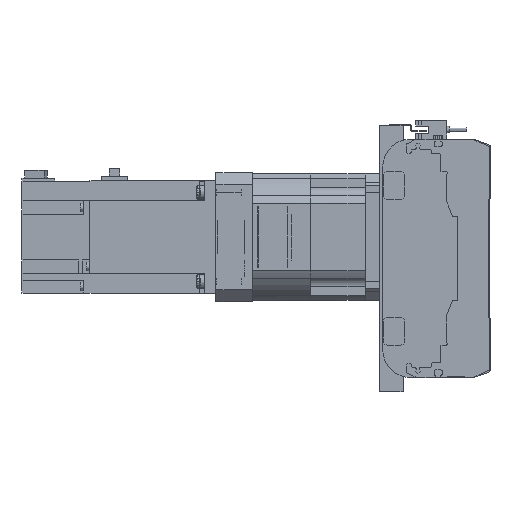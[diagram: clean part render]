
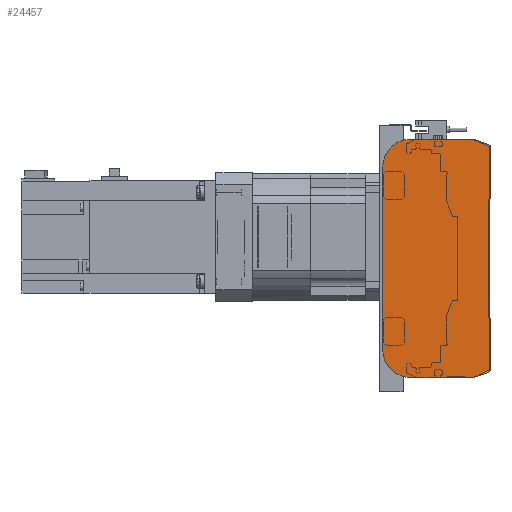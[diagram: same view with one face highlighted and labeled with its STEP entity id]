
A CAD part, left-side view. The second image highlights one B-rep face of the part: STEP entity #24457.
In plain terms, the highlighted planar face has unit normal (-1, 0, 0).
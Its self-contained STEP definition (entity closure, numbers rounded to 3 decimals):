
#1877=CIRCLE('',#26765,2.);
#1878=CIRCLE('',#26768,2.);
#1879=CIRCLE('',#26771,20.);
#1880=CIRCLE('',#26774,20.);
#7042=ORIENTED_EDGE('',*,*,#11679,.F.);
#7043=ORIENTED_EDGE('',*,*,#11757,.F.);
#7044=ORIENTED_EDGE('',*,*,#11755,.F.);
#7045=ORIENTED_EDGE('',*,*,#11753,.F.);
#7046=ORIENTED_EDGE('',*,*,#11456,.F.);
#7047=ORIENTED_EDGE('',*,*,#11752,.F.);
#7048=ORIENTED_EDGE('',*,*,#11750,.F.);
#7049=ORIENTED_EDGE('',*,*,#11748,.F.);
#7050=ORIENTED_EDGE('',*,*,#11746,.F.);
#7051=ORIENTED_EDGE('',*,*,#11744,.F.);
#11456=EDGE_CURVE('',#14134,#14135,#16208,.T.);
#11679=EDGE_CURVE('',#14206,#14207,#16322,.T.);
#11744=EDGE_CURVE('',#14207,#14248,#16367,.T.);
#11746=EDGE_CURVE('',#14248,#14249,#1877,.T.);
#11748=EDGE_CURVE('',#14249,#14250,#16370,.T.);
#11750=EDGE_CURVE('',#14250,#14251,#1878,.T.);
#11752=EDGE_CURVE('',#14251,#14134,#16373,.T.);
#11753=EDGE_CURVE('',#14135,#14252,#1879,.T.);
#11755=EDGE_CURVE('',#14252,#14253,#16375,.T.);
#11757=EDGE_CURVE('',#14253,#14206,#1880,.T.);
#14134=VERTEX_POINT('',#41238);
#14135=VERTEX_POINT('',#41240);
#14206=VERTEX_POINT('',#41586);
#14207=VERTEX_POINT('',#41588);
#14248=VERTEX_POINT('',#41718);
#14249=VERTEX_POINT('',#41722);
#14250=VERTEX_POINT('',#41726);
#14251=VERTEX_POINT('',#41730);
#14252=VERTEX_POINT('',#41736);
#14253=VERTEX_POINT('',#41740);
#16208=LINE('',#41239,#18245);
#16322=LINE('',#41587,#18359);
#16367=LINE('',#41717,#18404);
#16370=LINE('',#41725,#18407);
#16373=LINE('',#41733,#18410);
#16375=LINE('',#41739,#18412);
#18245=VECTOR('',#32423,1000.);
#18359=VECTOR('',#32861,1000.);
#18404=VECTOR('',#32994,1000.);
#18407=VECTOR('',#33003,1000.);
#18410=VECTOR('',#33012,1000.);
#18412=VECTOR('',#33020,1000.);
#20064=EDGE_LOOP('',(#7042,#7043,#7044,#7045,#7046,#7047,#7048,#7049,#7050,
#7051));
#22073=FACE_BOUND('',#20064,.T.);
#23238=PLANE('',#26776);
#24457=ADVANCED_FACE('',(#22073),#23238,.F.);
#26765=AXIS2_PLACEMENT_3D('',#41721,#32998,#32999);
#26768=AXIS2_PLACEMENT_3D('',#41729,#33007,#33008);
#26771=AXIS2_PLACEMENT_3D('',#41735,#33015,#33016);
#26774=AXIS2_PLACEMENT_3D('',#41743,#33024,#33025);
#26776=AXIS2_PLACEMENT_3D('',#41745,#33028,#33029);
#32423=DIRECTION('',(0.,1.,0.));
#32861=DIRECTION('',(0.,-1.,0.));
#32994=DIRECTION('',(0.,-0.913,-0.408));
#32998=DIRECTION('',(1.,0.,0.));
#32999=DIRECTION('',(0.,0.,-1.));
#33003=DIRECTION('',(0.,0.,-1.));
#33007=DIRECTION('',(1.,0.,0.));
#33008=DIRECTION('',(0.,0.,-1.));
#33012=DIRECTION('',(0.,0.913,-0.408));
#33015=DIRECTION('',(1.,0.,0.));
#33016=DIRECTION('',(0.,0.,-1.));
#33020=DIRECTION('',(0.,0.,1.));
#33024=DIRECTION('',(1.,0.,0.));
#33025=DIRECTION('',(0.,0.,-1.));
#33028=DIRECTION('',(1.,0.,0.));
#33029=DIRECTION('',(0.,0.,-1.));
#41238=CARTESIAN_POINT('',(0.,12.33,-85.));
#41239=CARTESIAN_POINT('',(0.,12.33,-85.));
#41240=CARTESIAN_POINT('',(0.,56.5,-85.));
#41586=CARTESIAN_POINT('',(0.,56.5,85.));
#41587=CARTESIAN_POINT('',(0.,56.5,85.));
#41588=CARTESIAN_POINT('',(0.,12.33,85.));
#41717=CARTESIAN_POINT('',(0.,12.33,85.));
#41718=CARTESIAN_POINT('',(0.,1.684,80.239));
#41721=CARTESIAN_POINT('',(0.,2.5,78.413));
#41722=CARTESIAN_POINT('',(0.,0.5,78.413));
#41725=CARTESIAN_POINT('',(0.,0.5,78.413));
#41726=CARTESIAN_POINT('',(0.,0.5,-78.413));
#41729=CARTESIAN_POINT('',(0.,2.5,-78.413));
#41730=CARTESIAN_POINT('',(0.,1.684,-80.239));
#41733=CARTESIAN_POINT('',(0.,1.684,-80.239));
#41735=CARTESIAN_POINT('',(0.,56.5,-65.));
#41736=CARTESIAN_POINT('',(0.,76.5,-65.));
#41739=CARTESIAN_POINT('',(0.,76.5,-65.));
#41740=CARTESIAN_POINT('',(0.,76.5,65.));
#41743=CARTESIAN_POINT('',(0.,56.5,65.));
#41745=CARTESIAN_POINT('',(0.,2.5,78.413));
